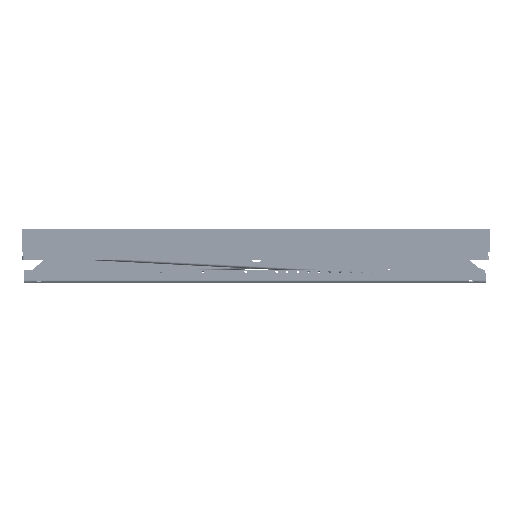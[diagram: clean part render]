
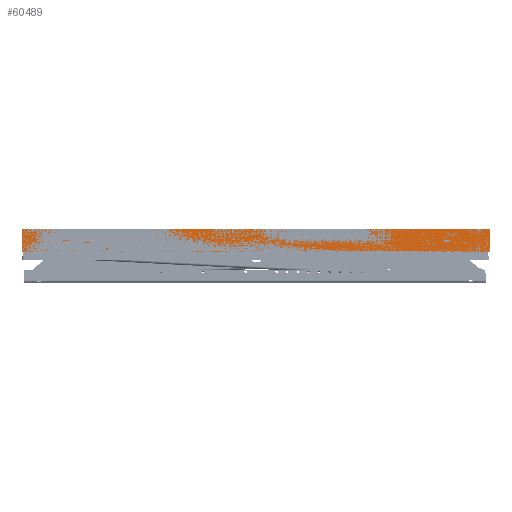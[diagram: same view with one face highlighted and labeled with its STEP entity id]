
A CAD part, left-side view. The second image highlights one B-rep face of the part: STEP entity #60489.
In plain terms, the highlighted planar face has unit normal (-1, 0, 0) as drawn and (0, 1, 0) by its records, which use the part's own axes.
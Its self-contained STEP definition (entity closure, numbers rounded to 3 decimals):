
#4471=PLANE('',#66055);
#9735=LINE('',#108850,#15007);
#9740=LINE('',#108861,#15012);
#9742=LINE('',#108864,#15014);
#9743=LINE('',#108865,#15015);
#15007=VECTOR('',#82429,106.);
#15012=VECTOR('',#82438,106.);
#15014=VECTOR('',#82442,2200.);
#15015=VECTOR('',#82443,2200.);
#18657=FACE_OUTER_BOUND('',#22299,.T.);
#22299=EDGE_LOOP('',(#56174,#56175,#56176,#56177));
#30579=VERTEX_POINT('',#108843);
#30582=VERTEX_POINT('',#108848);
#30585=VERTEX_POINT('',#108858);
#30586=VERTEX_POINT('',#108860);
#39107=EDGE_CURVE('',#30579,#30582,#9735,.T.);
#39112=EDGE_CURVE('',#30586,#30585,#9740,.T.);
#39114=EDGE_CURVE('',#30585,#30579,#9742,.T.);
#39115=EDGE_CURVE('',#30582,#30586,#9743,.T.);
#56174=ORIENTED_EDGE('',*,*,#39114,.T.);
#56175=ORIENTED_EDGE('',*,*,#39107,.T.);
#56176=ORIENTED_EDGE('',*,*,#39115,.T.);
#56177=ORIENTED_EDGE('',*,*,#39112,.T.);
#60489=ADVANCED_FACE('',(#18657),#4471,.T.);
#66055=AXIS2_PLACEMENT_3D('',#108863,#82440,#82441);
#82429=DIRECTION('',(0.,0.,-1.));
#82438=DIRECTION('',(0.,0.,1.));
#82440=DIRECTION('center_axis',(0.,1.,0.));
#82441=DIRECTION('ref_axis',(0.,0.,1.));
#82442=DIRECTION('',(1.,0.,0.));
#82443=DIRECTION('',(-1.,0.,0.));
#108843=CARTESIAN_POINT('',(1100.,750.,53.));
#108848=CARTESIAN_POINT('',(1100.,750.,-53.));
#108850=CARTESIAN_POINT('',(1100.,750.,0.));
#108858=CARTESIAN_POINT('',(-1100.,750.,53.));
#108860=CARTESIAN_POINT('',(-1100.,750.,-53.));
#108861=CARTESIAN_POINT('',(-1100.,750.,0.));
#108863=CARTESIAN_POINT('Origin',(-1100.,750.,0.));
#108864=CARTESIAN_POINT('',(-1100.,750.,53.));
#108865=CARTESIAN_POINT('',(-1100.,750.,-53.));
